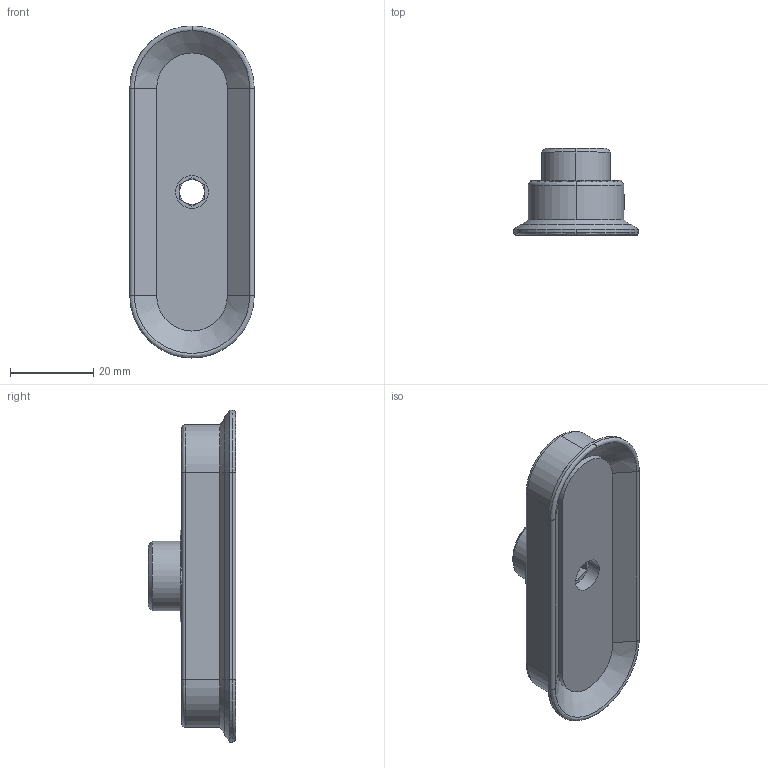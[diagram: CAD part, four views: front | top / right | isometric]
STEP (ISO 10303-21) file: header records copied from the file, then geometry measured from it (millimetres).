
FILE_DESCRIPTION (( 'STEP AP214' ), '1' );
FILE_NAME ('SAOF-9030-G3-8AG.STEP', '2023-03-07T06:23:11', ( 'Windows User' ), ( 'P R C' ), 'SwSTEP 2.0', 'SolidWorks 2019', '' );
FILE_SCHEMA (( 'AUTOMOTIVE_DESIGN' ));
Length unit declared in the file: millimetre
Products named in the file (1): SAOF-9030-G3-8AG
Bounding box: 30 x 21 x 80 mm (x, y, z)
Volume: 17782.8 mm3; surface area: 7578 mm2
Topology: 1 solids, 1 shells, 122 faces, 288 edges, 178 vertices
Faces by surface type: plane 66, bspline 23, cylinder 22, cone 11
Entity records: 6785 total; most frequent: CARTESIAN_POINT 2715, ORIENTED_EDGE 576, DIRECTION 510, EDGE_CURVE 288, LINE 184, VECTOR 184, VERTEX_POINT 178, AXIS2_PLACEMENT_3D 163
